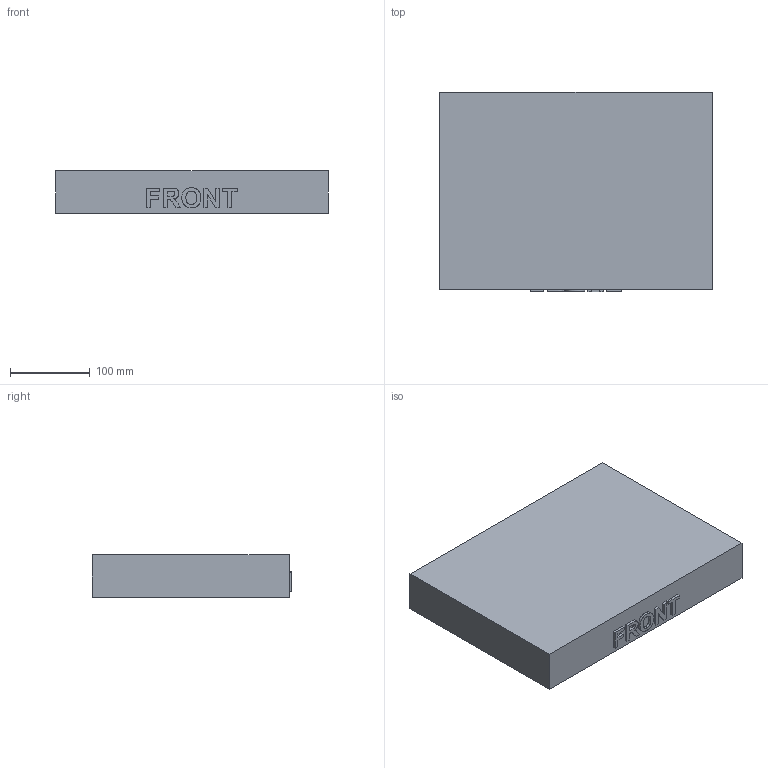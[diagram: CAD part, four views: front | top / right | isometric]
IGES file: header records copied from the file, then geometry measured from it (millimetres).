
Start section: Comment
Global section: file name: 2100-lid_internal_tub.igs; native system:  By UGS Corp.; preprocessor: XPlus GENERIC/IGES 3.0; author: Author; organization: Title; date: 20100512.150609; units: millimetre
Bounding box: 342.9 x 250.82 x 53.98 mm (x, y, z)
Surface area: 282755 mm2 (no closed solid volume)
Topology: 0 solids, 0 shells, 207 faces, 1236 edges, 1224 vertices
Faces by surface type: bspline 207
